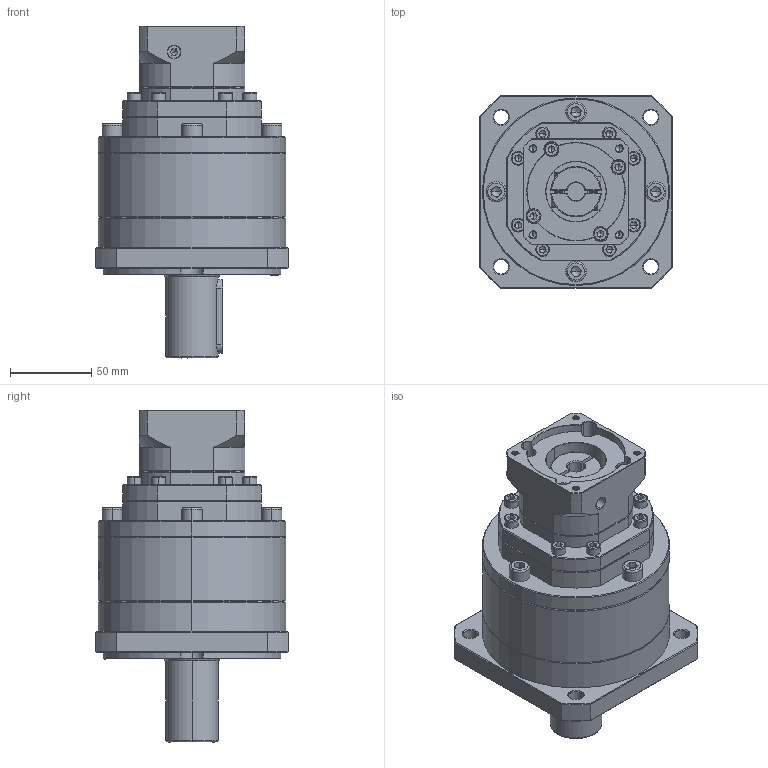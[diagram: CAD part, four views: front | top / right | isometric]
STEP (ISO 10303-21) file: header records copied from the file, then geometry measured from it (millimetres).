
FILE_DESCRIPTION (( 'STEP AP214' ), '1' );
FILE_NAME ('ZF120A-D32-L3-P2-11-60-75-M5.step', '2023-08-27T06:30:41', ( '' ), ( '' ), 'SwSTEP 2.0', 'SolidWorks 2016', '' );
FILE_SCHEMA (( 'AUTOMOTIVE_DESIGN' ));
Length unit declared in the file: millimetre
Products named in the file (1): ZF120A-D32-L3-P2-11-60-75-M5
Bounding box: 118 x 118 x 204 mm (x, y, z)
Volume: 1222357.7 mm3; surface area: 117696.6 mm2
Topology: 7 solids, 7 shells, 2366 faces, 6310 edges, 4050 vertices
Faces by surface type: plane 1179, bspline 435, cylinder 426, cone 304, torus 22
Entity records: 126320 total; most frequent: CARTESIAN_POINT 46748, ORIENTED_EDGE 12512, DIRECTION 9290, EDGE_CURVE 6256, VERTEX_POINT 4050, VECTOR 3338, LINE 3338, AXIS2_PLACEMENT_3D 2976
